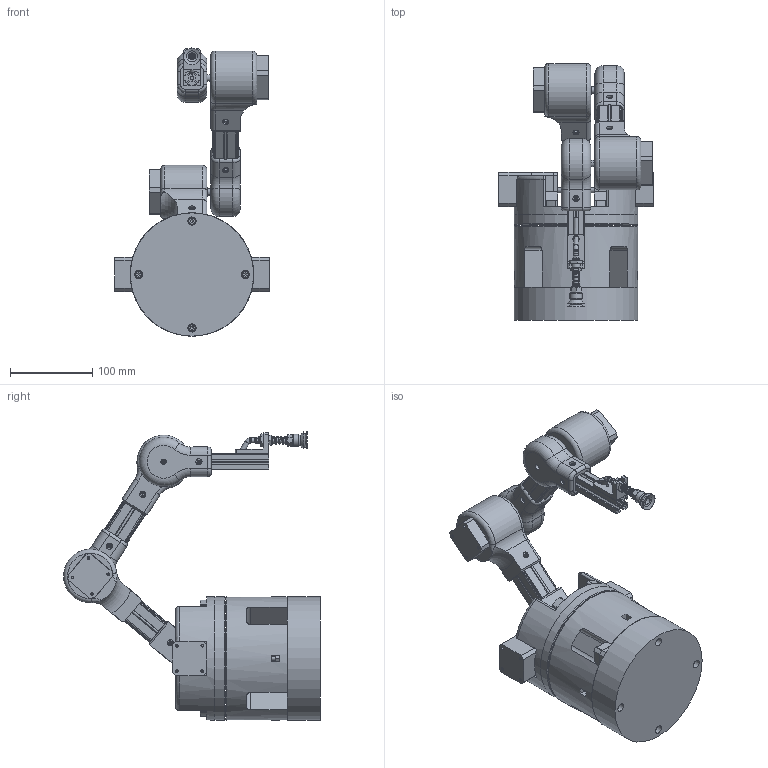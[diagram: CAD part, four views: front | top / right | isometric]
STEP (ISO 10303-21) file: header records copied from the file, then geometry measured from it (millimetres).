
FILE_DESCRIPTION(/* description */ ('','CAx-IF Rec.Pracs.---Representation and Presentation of Product Manufacturing Information (PMI)---4.0---2014-10-13'),/* implementation_level */ '2;1');
FILE_NAME(/* name */ 'Assieme_robot_cicloidale2.stp',/* time_stamp */ '2026-03-23T20:01:43+01:00',/* author */ ('R5800u'),/* organization */ (''),/* preprocessor_version */ 'ST-DEVELOPER v20',/* originating_system */ 'Autodesk Inventor 2025',/* authorisation */ '');
FILE_SCHEMA (('AP242_MANAGED_MODEL_BASED_3D_ENGINEERING_MIM_LF { 1 0 10303 442 1 1 4 }'));
Length unit declared in the file: millimetre
Products named in the file (32): Assieme_robot; braccio1; riduttore_cicloidale_nema17-47mm; NEMA 17; base_ferro; ISO 104 - 1 11 50 x 70 x 14; blocco_base; disco_base1; disco_base2; staffa_nema; AS 1112 - M5  Tipo 5; ANSI B18.3.1M - M5x0,8 x 50, FSHCSM; blocco_nema; riduttore_cicloidale_nema17-40mm; NEMA 17-40mm; riduttore ciccloidale TS42 15-1; blocco_albero_nema; R.03.Suction Grab; R.03.01.Cup; R.03.02.Tube; R.03.03.Spring; R.03.04.Fitting; DIN 3771 - 5 x 1,8 - N - NBR 70; R.03.05.Interface; R.03.06.Nut; blocco_ventosa_profilato; tslot-20x20-100mm; tubo_silicone; AS 1420 - 1973 - M3 x 16; AS 1112 - M4  Tipo 5; Assieme_frame_tslot; frame_tslot
Assembly tree (57 placements, depth 3):
  Assieme_robot
    riduttore_cicloidale_nema17-47mm  x2
      NEMA 17
      riduttore ciccloidale TS42 15-1
    braccio1
    tslot-20x20-100mm  x2
    riduttore_cicloidale_nema17-40mm  x3
      NEMA 17-40mm
      riduttore ciccloidale TS42 15-1
    base_ferro
    ISO 104 - 1 11 50 x 70 x 14
    blocco_base
    disco_base1
    disco_base2
    staffa_nema  x2
    AS 1112 - M5  Tipo 5  x8
    ANSI B18.3.1M - M5x0,8 x 50, FSHCSM  x4
    blocco_nema  x2
    blocco_albero_nema  x2
    R.03.Suction Grab
      R.03.01.Cup
      R.03.02.Tube
      R.03.03.Spring
      R.03.04.Fitting
      DIN 3771 - 5 x 1,8 - N - NBR 70
      R.03.05.Interface
      R.03.06.Nut
      blocco_ventosa_profilato
      tslot-20x20-100mm
      tubo_silicone
    AS 1420 - 1973 - M3 x 16
    AS 1112 - M4  Tipo 5  x4
    Assieme_frame_tslot  x2
      frame_tslot
Bounding box: 188 x 312.36 x 350.69 mm (x, y, z)
Volume: 3388058.4 mm3; surface area: 640638.8 mm2
Topology: 76 solids, 78 shells, 2001 faces, 4918 edges, 3155 vertices
Faces by surface type: plane 1058, cylinder 507, cone 237, torus 123, sphere 56, bspline 20
Full cylindrical faces by diameter (mm): 2 x1, 2.459 x25, 2.5 x1, 3 x2, 3.2 x26, 3.242 x32, 3.4 x3, 4.134 x8, 4.2 x3, 4.3 x34, 4.5 x4, 5 x17, 5.25 x1, 5.3 x12, 5.5 x1, 6 x26, 6.2 x3, 6.5 x8, 7 x2, 7.5 x18, 8 x2, 8.5 x4, 8.9 x4, 10 x11, 15 x1, 20 x1, 22 x15, 22.2 x3, 22.5 x2, 49 x1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
Entity records: 38196 total; most frequent: CARTESIAN_POINT 9677, DIRECTION 5776, ORIENTED_EDGE 4304, AXIS2_PLACEMENT_3D 2340, EDGE_CURVE 2162, VERTEX_POINT 1469, STYLED_ITEM 1174, EDGE_LOOP 1115
